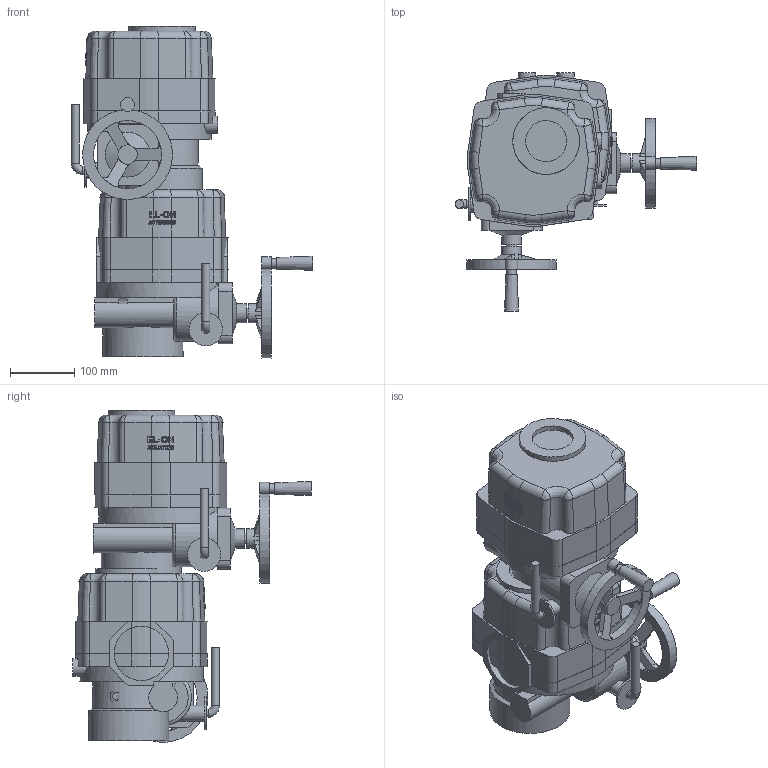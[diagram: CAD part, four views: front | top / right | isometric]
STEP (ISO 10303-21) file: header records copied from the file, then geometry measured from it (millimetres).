
FILE_DESCRIPTION( ( 'Unknown' ), '1' );
FILE_NAME( 'W:/ECCUA/ROOTSI BPS 3D vidinad/Kuulkraanid/Roostevaba kuulkraanid/Ball valve BPS 2420/Ball valve with electric actuator BPS/STEP formaat/BPS 2420080E ball valve DN80.stp', 'Unknown', ( 'Unknown' ), ( 'Unknown' ), 'PSStep 10.1', 'Unknown', ' ' );
FILE_SCHEMA( ( 'AUTOMOTIVE_DESIGN { 1 0 10303 214 1 1 1 1 }' ) );
Length unit declared in the file: millimetre
Products named in the file (3): Assem1; BPS 2420080 ball valve DN80; BPS 8005150 electric actuator DN150
Bounding box: 377 x 372 x 517.73 mm (x, y, z)
Volume: 18744798.3 mm3; surface area: 1212789.9 mm2
Topology: 4 solids, 6 shells, 1348 faces, 3404 edges, 2218 vertices
Faces by surface type: plane 628, cylinder 352, bspline 242, cone 114, torus 12
Full cylindrical faces by diameter (mm): 12 x36, 13 x4, 15 x2, 18 x2, 22 x2, 25 x2, 27 x4, 30 x4, 40 x2, 52 x2, 53 x2, 64 x2, 76 x2, 84.926 x4, 104 x2, 106 x2, 112 x2, 125 x4, 193 x2
Entity records: 38672 total; most frequent: CARTESIAN_POINT 18904, ORIENTED_EDGE 3190, DIRECTION 2381, EDGE_CURVE 1595, VERTEX_POINT 1076, AXIS2_PLACEMENT_3D 889, EDGE_LOOP 847, FACE_OUTER_BOUND 728
